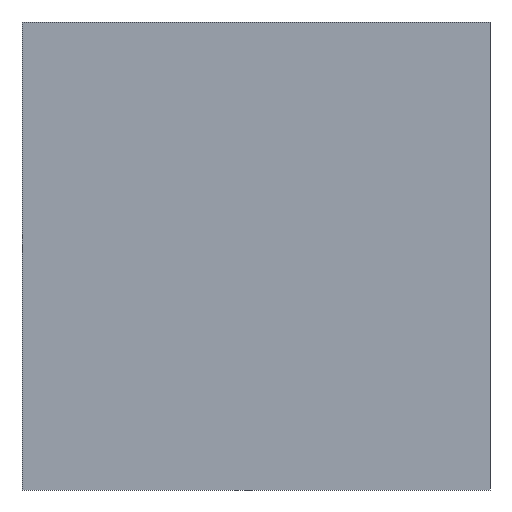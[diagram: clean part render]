
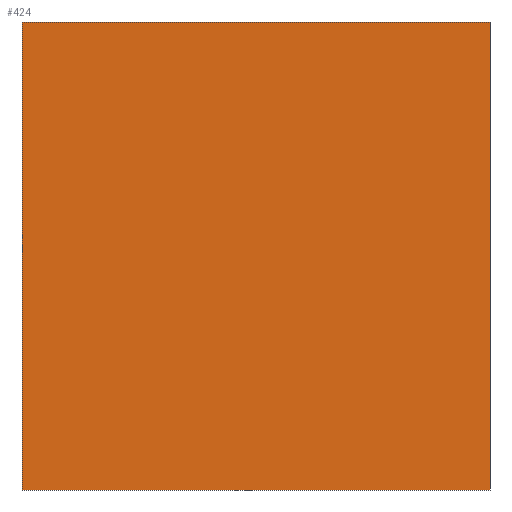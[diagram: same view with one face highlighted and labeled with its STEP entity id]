
A CAD part, left-side view. The second image highlights one B-rep face of the part: STEP entity #424.
In plain terms, the highlighted planar face has unit normal (-1, 0, 0).
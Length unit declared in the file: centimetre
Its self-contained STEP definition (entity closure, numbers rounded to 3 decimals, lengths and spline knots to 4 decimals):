
#17 = ORIENTED_EDGE ( 'NONE', *, *, #295, .F. ) ;
#62 = CARTESIAN_POINT ( 'NONE',  ( 0., 1000., 1000. ) ) ;
#107 = CARTESIAN_POINT ( 'NONE',  ( 0., 0., 1000. ) ) ;
#118 = PLANE ( 'NONE',  #358 ) ;
#133 = VERTEX_POINT ( 'NONE', #143 ) ;
#142 = EDGE_CURVE ( 'NONE', #629, #205, #285, .T. ) ;
#143 = CARTESIAN_POINT ( 'NONE',  ( 0., 1000., 1000. ) ) ;
#152 = DIRECTION ( 'NONE',  ( 0., -1., 0. ) ) ;
#166 = ORIENTED_EDGE ( 'NONE', *, *, #474, .T. ) ;
#169 = DIRECTION ( 'NONE',  ( 0., -1., 0. ) ) ;
#205 = VERTEX_POINT ( 'NONE', #561 ) ;
#224 = ORIENTED_EDGE ( 'NONE', *, *, #142, .F. ) ;
#237 = DIRECTION ( 'NONE',  ( 0., 0., -1. ) ) ;
#241 = VECTOR ( 'NONE', #152, 100. ) ;
#251 = CARTESIAN_POINT ( 'NONE',  ( 0., 1000., 0. ) ) ;
#265 = DIRECTION ( 'NONE',  ( 0., 0., -1. ) ) ;
#268 = DIRECTION ( 'NONE',  ( 0., 0., -1. ) ) ;
#285 = LINE ( 'NONE', #491, #356 ) ;
#295 = EDGE_CURVE ( 'NONE', #133, #629, #299, .T. ) ;
#299 = LINE ( 'NONE', #62, #241 ) ;
#320 = LINE ( 'NONE', #516, #447 ) ;
#328 = CARTESIAN_POINT ( 'NONE',  ( 0., 1000., 1000. ) ) ;
#356 = VECTOR ( 'NONE', #237, 100. ) ;
#358 = AXIS2_PLACEMENT_3D ( 'NONE', #328, #623, #265 ) ;
#359 = EDGE_LOOP ( 'NONE', ( #533, #224, #17, #166 ) ) ;
#424 = ADVANCED_FACE ( 'NONE', ( #572 ), #118, .F. ) ;
#447 = VECTOR ( 'NONE', #169, 100. ) ;
#474 = EDGE_CURVE ( 'NONE', #133, #603, #563, .T. ) ;
#491 = CARTESIAN_POINT ( 'NONE',  ( 0., 0., 1000. ) ) ;
#516 = CARTESIAN_POINT ( 'NONE',  ( 0., 1000., 0. ) ) ;
#533 = ORIENTED_EDGE ( 'NONE', *, *, #534, .T. ) ;
#534 = EDGE_CURVE ( 'NONE', #603, #205, #320, .T. ) ;
#561 = CARTESIAN_POINT ( 'NONE',  ( 0., 0., 0. ) ) ;
#563 = LINE ( 'NONE', #612, #608 ) ;
#572 = FACE_OUTER_BOUND ( 'NONE', #359, .T. ) ;
#603 = VERTEX_POINT ( 'NONE', #251 ) ;
#608 = VECTOR ( 'NONE', #268, 100. ) ;
#612 = CARTESIAN_POINT ( 'NONE',  ( 0., 1000., 1000. ) ) ;
#623 = DIRECTION ( 'NONE',  ( 1., 0., 0. ) ) ;
#629 = VERTEX_POINT ( 'NONE', #107 ) ;
